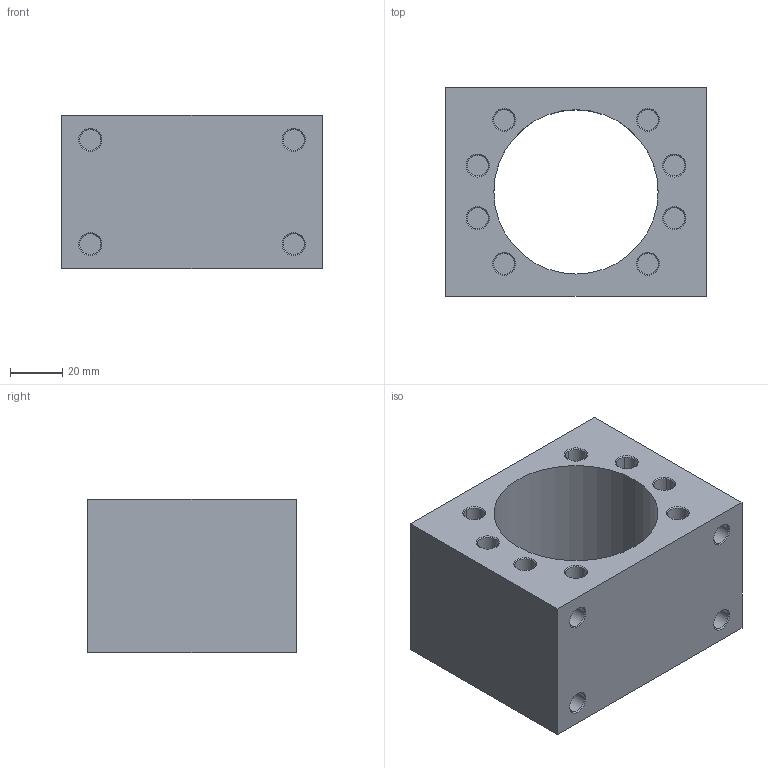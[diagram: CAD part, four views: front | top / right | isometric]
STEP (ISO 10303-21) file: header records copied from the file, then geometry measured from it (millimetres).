
FILE_DESCRIPTION (( 'STEP AP214' ), '1' );
FILE_NAME ('DSG40H.STEP', '2022-04-21T10:34:23', ( '' ), ( '' ), 'SwSTEP 2.0', 'SolidWorks 2019', '' );
FILE_SCHEMA (( 'AUTOMOTIVE_DESIGN' ));
Length unit declared in the file: millimetre
Products named in the file (1): DSG40H
Bounding box: 100 x 80 x 59 mm (x, y, z)
Volume: 277393.3 mm3; surface area: 47946.8 mm2
Topology: 1 solids, 1 shells, 68 faces, 146 edges, 92 vertices
Faces by surface type: cylinder 26, cone 24, plane 18
Entity records: 2168 total; most frequent: DIRECTION 368, CARTESIAN_POINT 307, ORIENTED_EDGE 292, AXIS2_PLACEMENT_3D 153, EDGE_CURVE 146, VERTEX_POINT 92, CIRCLE 84, EDGE_LOOP 82
